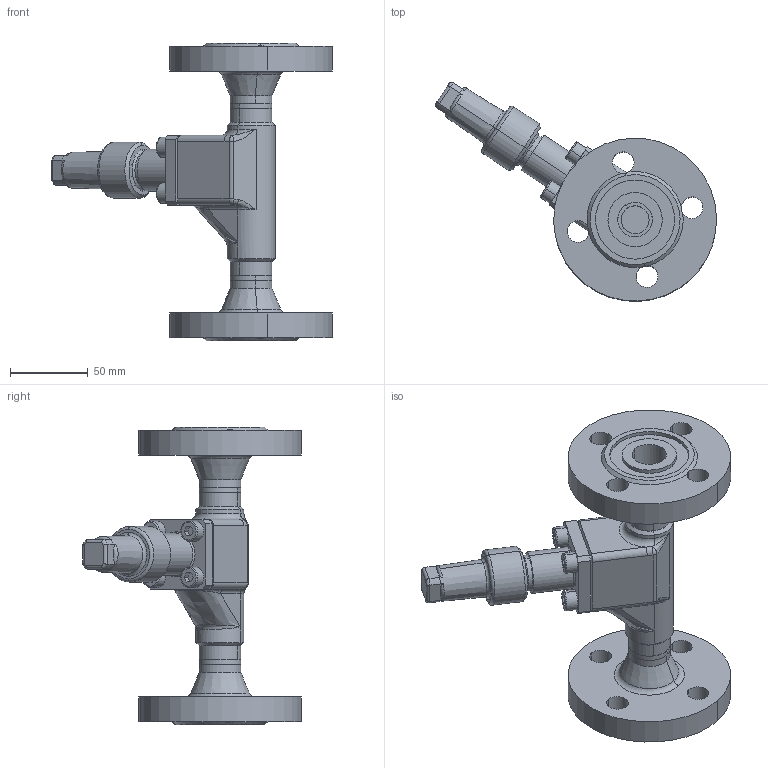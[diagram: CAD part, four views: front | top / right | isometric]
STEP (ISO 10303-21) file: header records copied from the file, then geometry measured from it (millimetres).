
FILE_DESCRIPTION (( 'STEP AP214' ), '1' );
FILE_NAME ('AVR96320-DN020_DIN-FL-N_PS40.STEP', '2006-05-02T07:56:06', ( 'Herr Grams' ), ( 'AWP GmbH' ), 'SwSTEP 2.0', 'SolidWorks 2002296', '' );
FILE_SCHEMA (( 'AUTOMOTIVE_DESIGN' ));
Length unit declared in the file: millimetre
Products named in the file (10): AVR96320-DN020_DIN-FL-N_PS40; Kappe96300E10_DN6-20_Standard; Geh-kpl96320E11-DN20_PS40_DIN-FL_Standard; Gehäuse96300E11-DN20_PS40_R1_Standard; Flansch-DIN2635-Nut_PS40_DIN-Flansch-DN020_PS40-Nut; bead963-DN020-2_Standard; bead963-DN020-1_Standard; AVR96300E11_Deck+Schr-DN20_Standard; Deckel96300E11-DN20_PS40_Standard; Zylinderschraube-DIN912_M 8x 20
Assembly tree (13 placements, depth 3):
  AVR96320-DN020_DIN-FL-N_PS40
    AVR96300E11_Deck+Schr-DN20_Standard
      Deckel96300E11-DN20_PS40_Standard
      Zylinderschraube-DIN912_M 8x 20  x4
    Kappe96300E10_DN6-20_Standard
    Geh-kpl96320E11-DN20_PS40_DIN-FL_Standard
      Flansch-DIN2635-Nut_PS40_DIN-Flansch-DN020_PS40-Nut  x2
      bead963-DN020-2_Standard
      Gehäuse96300E11-DN20_PS40_R1_Standard
      bead963-DN020-1_Standard
Bounding box: 181.15 x 141 x 192 mm (x, y, z)
Volume: 451109.7 mm3; surface area: 110529.9 mm2
Topology: 11 solids, 11 shells, 338 faces, 776 edges, 471 vertices
Faces by surface type: cylinder 133, plane 98, cone 48, torus 32, bspline 21, sphere 6
Entity records: 20868 total; most frequent: CARTESIAN_POINT 14412, DIRECTION 1225, ORIENTED_EDGE 1148, EDGE_CURVE 574, AXIS2_PLACEMENT_3D 513, VERTEX_POINT 347, EDGE_LOOP 289, CIRCLE 264
